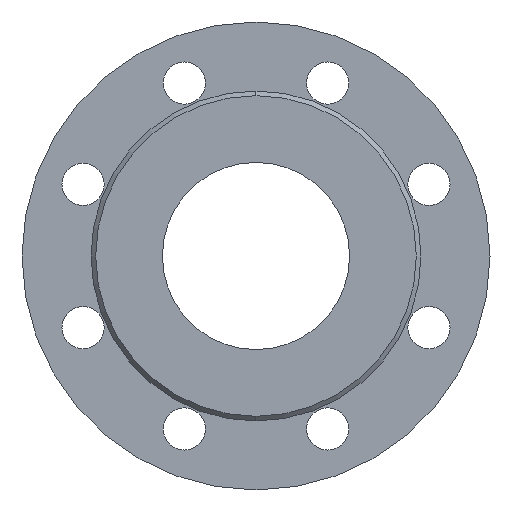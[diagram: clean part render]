
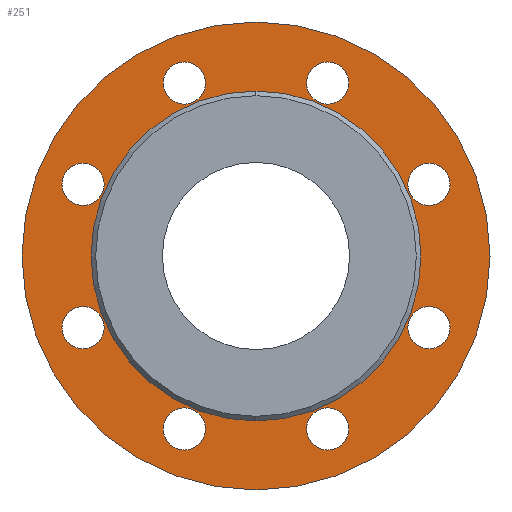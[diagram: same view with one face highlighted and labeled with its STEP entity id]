
A CAD part, left-side view. The second image highlights one B-rep face of the part: STEP entity #251.
In plain terms, the highlighted planar face has unit normal (-1, 0, 0).
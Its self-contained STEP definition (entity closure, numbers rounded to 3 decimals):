
#251=ADVANCED_FACE('',(#494,#495,#496,#497,#498,#499,#500,#501,#502,#503),#504,.F.);
#494=FACE_BOUND('',#753,.T.);
#495=FACE_BOUND('',#754,.T.);
#496=FACE_BOUND('',#755,.T.);
#497=FACE_BOUND('',#756,.T.);
#498=FACE_BOUND('',#757,.T.);
#499=FACE_BOUND('',#758,.T.);
#500=FACE_BOUND('',#759,.T.);
#501=FACE_BOUND('',#760,.T.);
#502=FACE_BOUND('',#761,.T.);
#503=FACE_OUTER_BOUND('',#762,.T.);
#504=PLANE('',#763);
#753=EDGE_LOOP('',(#1280,#1281));
#754=EDGE_LOOP('',(#1282,#1283));
#755=EDGE_LOOP('',(#1284,#1285));
#756=EDGE_LOOP('',(#1286,#1287));
#757=EDGE_LOOP('',(#1288,#1289));
#758=EDGE_LOOP('',(#1290,#1291));
#759=EDGE_LOOP('',(#1292,#1293));
#760=EDGE_LOOP('',(#1294,#1295));
#761=EDGE_LOOP('',(#1296,#1297));
#762=EDGE_LOOP('',(#1298,#1299));
#763=AXIS2_PLACEMENT_3D('',#1300,#1301,#1302);
#1280=ORIENTED_EDGE('',*,*,#1457,.T.);
#1281=ORIENTED_EDGE('',*,*,#1559,.T.);
#1282=ORIENTED_EDGE('',*,*,#1491,.T.);
#1283=ORIENTED_EDGE('',*,*,#1484,.T.);
#1284=ORIENTED_EDGE('',*,*,#1418,.T.);
#1285=ORIENTED_EDGE('',*,*,#1554,.T.);
#1286=ORIENTED_EDGE('',*,*,#1475,.T.);
#1287=ORIENTED_EDGE('',*,*,#1503,.T.);
#1288=ORIENTED_EDGE('',*,*,#1567,.T.);
#1289=ORIENTED_EDGE('',*,*,#1461,.T.);
#1290=ORIENTED_EDGE('',*,*,#1536,.T.);
#1291=ORIENTED_EDGE('',*,*,#1421,.T.);
#1292=ORIENTED_EDGE('',*,*,#1355,.T.);
#1293=ORIENTED_EDGE('',*,*,#1565,.T.);
#1294=ORIENTED_EDGE('',*,*,#1513,.T.);
#1295=ORIENTED_EDGE('',*,*,#1425,.T.);
#1296=ORIENTED_EDGE('',*,*,#1434,.T.);
#1297=ORIENTED_EDGE('',*,*,#1518,.T.);
#1298=ORIENTED_EDGE('',*,*,#1544,.F.);
#1299=ORIENTED_EDGE('',*,*,#1479,.F.);
#1300=CARTESIAN_POINT('',(2.0,0.0,0.));
#1301=DIRECTION('',(1.0,0.0,0.));
#1302=DIRECTION('',(0.,0.0,-1.0));
#1355=EDGE_CURVE('',#1576,#1580,#1582,.T.);
#1418=EDGE_CURVE('',#1691,#1693,#1695,.T.);
#1421=EDGE_CURVE('',#1699,#1697,#1700,.T.);
#1425=EDGE_CURVE('',#1705,#1703,#1706,.T.);
#1434=EDGE_CURVE('',#1715,#1717,#1719,.T.);
#1457=EDGE_CURVE('',#1753,#1751,#1754,.T.);
#1461=EDGE_CURVE('',#1759,#1757,#1760,.T.);
#1475=EDGE_CURVE('',#1778,#1780,#1782,.T.);
#1479=EDGE_CURVE('',#1786,#1784,#1788,.T.);
#1484=EDGE_CURVE('',#1794,#1792,#1795,.T.);
#1491=EDGE_CURVE('',#1792,#1794,#1804,.T.);
#1503=EDGE_CURVE('',#1780,#1778,#1822,.T.);
#1513=EDGE_CURVE('',#1703,#1705,#1832,.T.);
#1518=EDGE_CURVE('',#1717,#1715,#1837,.T.);
#1536=EDGE_CURVE('',#1697,#1699,#1861,.T.);
#1544=EDGE_CURVE('',#1784,#1786,#1869,.T.);
#1554=EDGE_CURVE('',#1693,#1691,#1881,.T.);
#1559=EDGE_CURVE('',#1751,#1753,#1886,.T.);
#1565=EDGE_CURVE('',#1580,#1576,#1892,.T.);
#1567=EDGE_CURVE('',#1757,#1759,#1894,.T.);
#1576=VERTEX_POINT('',#1903);
#1580=VERTEX_POINT('',#1908);
#1582=CIRCLE('',#1911,9.0);
#1691=VERTEX_POINT('',#2026);
#1693=VERTEX_POINT('',#2029);
#1695=CIRCLE('',#2032,9.0);
#1697=VERTEX_POINT('',#2034);
#1699=VERTEX_POINT('',#2037);
#1700=CIRCLE('',#2038,9.0);
#1703=VERTEX_POINT('',#2042);
#1705=VERTEX_POINT('',#2045);
#1706=CIRCLE('',#2046,9.0);
#1715=VERTEX_POINT('',#2058);
#1717=VERTEX_POINT('',#2061);
#1719=CIRCLE('',#2064,9.0);
#1751=VERTEX_POINT('',#2102);
#1753=VERTEX_POINT('',#2105);
#1754=CIRCLE('',#2106,40.0);
#1757=VERTEX_POINT('',#2110);
#1759=VERTEX_POINT('',#2113);
#1760=CIRCLE('',#2114,9.0);
#1778=VERTEX_POINT('',#2137);
#1780=VERTEX_POINT('',#2140);
#1782=CIRCLE('',#2143,9.0);
#1784=VERTEX_POINT('',#2145);
#1786=VERTEX_POINT('',#2148);
#1788=CIRCLE('',#2151,100.0);
#1792=VERTEX_POINT('',#2155);
#1794=VERTEX_POINT('',#2158);
#1795=CIRCLE('',#2159,9.0);
#1804=CIRCLE('',#2171,9.0);
#1822=CIRCLE('',#2193,9.0);
#1832=CIRCLE('',#2203,9.0);
#1837=CIRCLE('',#2208,9.0);
#1861=CIRCLE('',#2238,9.0);
#1869=CIRCLE('',#2246,100.0);
#1881=CIRCLE('',#2260,9.0);
#1886=CIRCLE('',#2265,40.0);
#1892=CIRCLE('',#2271,9.0);
#1894=CIRCLE('',#2273,9.0);
#1903=CARTESIAN_POINT('',(2.0,30.615,64.91));
#1908=CARTESIAN_POINT('',(2.0,30.615,82.91));
#1911=AXIS2_PLACEMENT_3D('',#2285,#2286,#2287);
#2026=CARTESIAN_POINT('',(2.0,30.615,-82.91));
#2029=CARTESIAN_POINT('',(2.0,30.615,-64.91));
#2032=AXIS2_PLACEMENT_3D('',#2434,#2435,#2436);
#2034=CARTESIAN_POINT('',(2.0,73.91,21.615));
#2037=CARTESIAN_POINT('',(2.0,73.91,39.615));
#2038=AXIS2_PLACEMENT_3D('',#2438,#2439,#2440);
#2042=CARTESIAN_POINT('',(2.0,-73.91,-39.615));
#2045=CARTESIAN_POINT('',(2.0,-73.91,-21.615));
#2046=AXIS2_PLACEMENT_3D('',#2443,#2444,#2445);
#2058=CARTESIAN_POINT('',(2.0,-30.615,-82.91));
#2061=CARTESIAN_POINT('',(2.0,-30.615,-64.91));
#2064=AXIS2_PLACEMENT_3D('',#2454,#2455,#2456);
#2102=CARTESIAN_POINT('',(2.0,0.,-40.0));
#2105=CARTESIAN_POINT('',(2.0,0.,40.0));
#2106=AXIS2_PLACEMENT_3D('',#2488,#2489,#2490);
#2110=CARTESIAN_POINT('',(2.0,-30.615,64.91));
#2113=CARTESIAN_POINT('',(2.0,-30.615,82.91));
#2114=AXIS2_PLACEMENT_3D('',#2493,#2494,#2495);
#2137=CARTESIAN_POINT('',(2.0,-73.91,21.615));
#2140=CARTESIAN_POINT('',(2.0,-73.91,39.615));
#2143=AXIS2_PLACEMENT_3D('',#2512,#2513,#2514);
#2145=CARTESIAN_POINT('',(2.,0.0,-100.0));
#2148=CARTESIAN_POINT('',(2.,0.,100.0));
#2151=AXIS2_PLACEMENT_3D('',#2517,#2518,#2519);
#2155=CARTESIAN_POINT('',(2.0,73.91,-39.615));
#2158=CARTESIAN_POINT('',(2.0,73.91,-21.615));
#2159=AXIS2_PLACEMENT_3D('',#2524,#2525,#2526);
#2171=AXIS2_PLACEMENT_3D('',#2533,#2534,#2535);
#2193=AXIS2_PLACEMENT_3D('',#2549,#2550,#2551);
#2203=AXIS2_PLACEMENT_3D('',#2564,#2565,#2566);
#2208=AXIS2_PLACEMENT_3D('',#2573,#2574,#2575);
#2238=AXIS2_PLACEMENT_3D('',#2597,#2598,#2599);
#2246=AXIS2_PLACEMENT_3D('',#2606,#2607,#2608);
#2260=AXIS2_PLACEMENT_3D('',#2620,#2621,#2622);
#2265=AXIS2_PLACEMENT_3D('',#2626,#2627,#2628);
#2271=AXIS2_PLACEMENT_3D('',#2632,#2633,#2634);
#2273=AXIS2_PLACEMENT_3D('',#2635,#2636,#2637);
#2285=CARTESIAN_POINT('',(2.0,30.615,73.91));
#2286=DIRECTION('',(1.0,0.0,0.));
#2287=DIRECTION('',(0.,0.0,-1.0));
#2434=CARTESIAN_POINT('',(2.0,30.615,-73.91));
#2435=DIRECTION('',(1.0,0.0,0.));
#2436=DIRECTION('',(0.,0.0,-1.0));
#2438=CARTESIAN_POINT('',(2.0,73.91,30.615));
#2439=DIRECTION('',(1.0,0.0,0.));
#2440=DIRECTION('',(0.,0.0,-1.0));
#2443=CARTESIAN_POINT('',(2.0,-73.91,-30.615));
#2444=DIRECTION('',(1.0,0.0,0.));
#2445=DIRECTION('',(0.,0.0,-1.0));
#2454=CARTESIAN_POINT('',(2.0,-30.615,-73.91));
#2455=DIRECTION('',(1.0,0.0,0.));
#2456=DIRECTION('',(0.,0.0,-1.0));
#2488=CARTESIAN_POINT('',(2.0,0.0,0.));
#2489=DIRECTION('',(1.0,0.0,0.));
#2490=DIRECTION('',(0.,0.0,-1.0));
#2493=CARTESIAN_POINT('',(2.0,-30.615,73.91));
#2494=DIRECTION('',(1.0,0.0,0.));
#2495=DIRECTION('',(0.,0.0,-1.0));
#2512=CARTESIAN_POINT('',(2.0,-73.91,30.615));
#2513=DIRECTION('',(1.0,0.0,0.));
#2514=DIRECTION('',(0.,0.0,-1.0));
#2517=CARTESIAN_POINT('',(2.0,0.0,0.));
#2518=DIRECTION('',(1.0,0.0,0.));
#2519=DIRECTION('',(0.,0.0,-1.0));
#2524=CARTESIAN_POINT('',(2.0,73.91,-30.615));
#2525=DIRECTION('',(1.0,0.0,0.));
#2526=DIRECTION('',(0.,0.0,-1.0));
#2533=CARTESIAN_POINT('',(2.0,73.91,-30.615));
#2534=DIRECTION('',(1.0,0.0,0.));
#2535=DIRECTION('',(0.,0.0,-1.0));
#2549=CARTESIAN_POINT('',(2.0,-73.91,30.615));
#2550=DIRECTION('',(1.0,0.0,0.));
#2551=DIRECTION('',(0.,0.0,-1.0));
#2564=CARTESIAN_POINT('',(2.0,-73.91,-30.615));
#2565=DIRECTION('',(1.0,0.0,0.));
#2566=DIRECTION('',(0.,0.0,-1.0));
#2573=CARTESIAN_POINT('',(2.0,-30.615,-73.91));
#2574=DIRECTION('',(1.0,0.0,0.));
#2575=DIRECTION('',(0.,0.0,-1.0));
#2597=CARTESIAN_POINT('',(2.0,73.91,30.615));
#2598=DIRECTION('',(1.0,0.0,0.));
#2599=DIRECTION('',(0.,0.0,-1.0));
#2606=CARTESIAN_POINT('',(2.0,0.0,0.));
#2607=DIRECTION('',(1.0,0.0,0.));
#2608=DIRECTION('',(0.,0.0,-1.0));
#2620=CARTESIAN_POINT('',(2.0,30.615,-73.91));
#2621=DIRECTION('',(1.0,0.0,0.));
#2622=DIRECTION('',(0.,0.0,-1.0));
#2626=CARTESIAN_POINT('',(2.0,0.0,0.));
#2627=DIRECTION('',(1.0,0.0,0.));
#2628=DIRECTION('',(0.,0.0,-1.0));
#2632=CARTESIAN_POINT('',(2.0,30.615,73.91));
#2633=DIRECTION('',(1.0,0.0,0.));
#2634=DIRECTION('',(0.,0.0,-1.0));
#2635=CARTESIAN_POINT('',(2.0,-30.615,73.91));
#2636=DIRECTION('',(1.0,0.0,0.));
#2637=DIRECTION('',(0.,0.0,-1.0));
